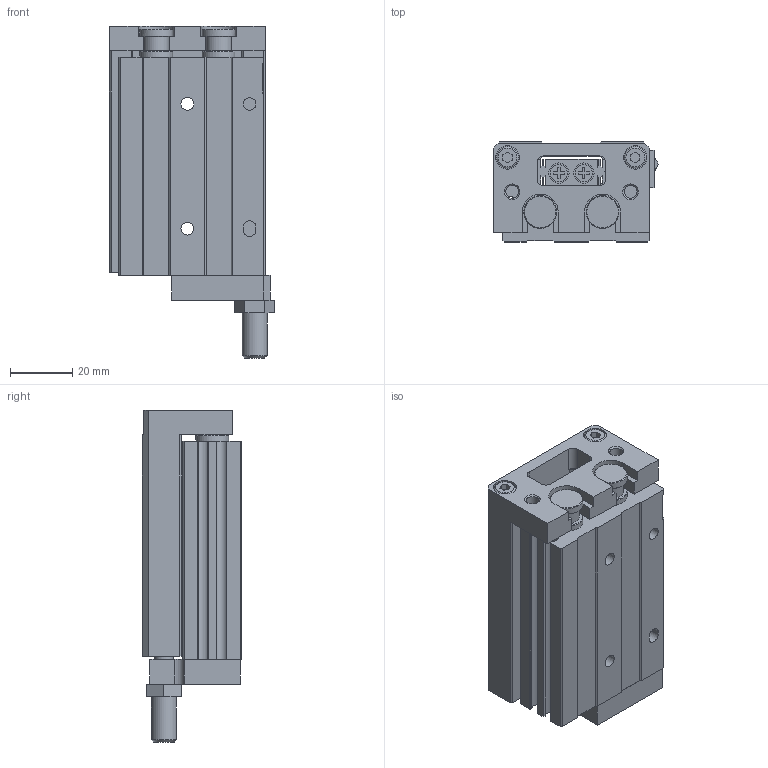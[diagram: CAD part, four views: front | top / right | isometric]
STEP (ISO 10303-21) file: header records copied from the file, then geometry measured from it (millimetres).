
FILE_DESCRIPTION( ( 'STEP AP214' ), '1' );
FILE_NAME( 'C:/Users/EMC02301/Desktop/ELSL图纸/ELSL12X20-S-AF.stp', '2026-08-05T07:10:15', ( 'License CC BY-ND 4.0' ), ( 'CADENAS' ), ' ', 'PARTsolutions', ' ' );
FILE_SCHEMA( ( 'AUTOMOTIVE_DESIGN { 1 0 10303 214 1 1 1 1 }' ) );
Length unit declared in the file: millimetre
Products named in the file (4): ELSL12X20-S-AF(0)(); _ELSL12X20-S-AF(HX-07)(HX-07-1)(0-body); _ELSL12X20-S-AF(0-rod); _FJ-ELSL12-(AF)
Assembly tree (3 placements, depth 2):
  ELSL12X20-S-AF(0)()
    _ELSL12X20-S-AF(HX-07)(HX-07-1)(0-body)
    _ELSL12X20-S-AF(0-rod)
    _FJ-ELSL12-(AF)
Bounding box: 52.95 x 32 x 106.5 mm (x, y, z)
Volume: 108321.4 mm3; surface area: 45785.2 mm2
Topology: 3 solids, 3 shells, 472 faces, 1161 edges, 762 vertices
Faces by surface type: plane 358, cylinder 87, cone 25, torus 2
Full cylindrical faces by diameter (mm): 3.242 x12, 4 x2, 4.134 x4, 4.2 x2, 4.459 x2, 5.5 x8, 6 x5, 6.5 x8, 7 x2, 7.2 x4, 7.5 x2, 7.6 x4, 8 x1, 9 x4, 10.5 x6, 12 x4, 15.1 x2
Entity records: 17106 total; most frequent: CARTESIAN_POINT 2278, DIRECTION 2212, ORIENTED_EDGE 2102, EDGE_CURVE 1051, LINE 842, VECTOR 842, VERTEX_POINT 751, AXIS2_PLACEMENT_3D 685
